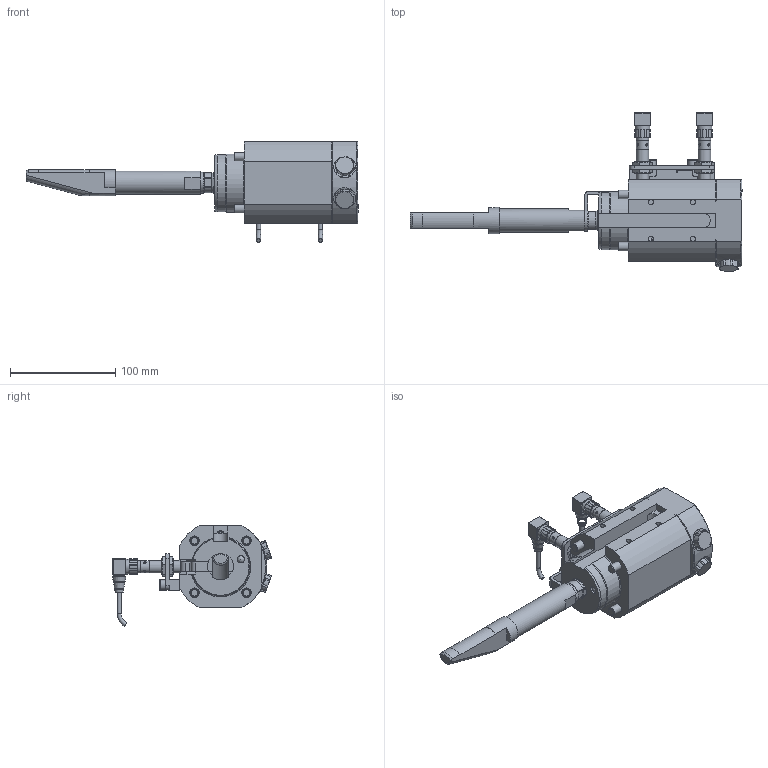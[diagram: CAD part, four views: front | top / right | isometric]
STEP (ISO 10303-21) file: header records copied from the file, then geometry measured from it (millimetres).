
FILE_DESCRIPTION(/* description */ (''),/* implementation_level */ '2;1');
FILE_NAME(/* name */ 'P:\Engineering\Released Drawings\Standard Parts\HECS, Engel Cylinders\HECS40\HECS40-810-4 (04-02-21).stp',/* time_stamp */ '2021-02-04T08:09:28+01:00',/* author */ ('breep'),/* organization */ (''),/* preprocessor_version */ 'ST-DEVELOPER v17.2',/* originating_system */ 'Autodesk Inventor 2019',/* authorisation */ '');
FILE_SCHEMA (('AUTOMOTIVE_DESIGN { 1 0 10303 214 3 1 1 }'));
Length unit declared in the file: millimetre
Products named in the file (1): HECS-40-810-4 (04-02-21)
Bounding box: 316 x 151.58 x 95.75 mm (x, y, z)
Volume: 694434.6 mm3; surface area: 138814.4 mm2
Topology: 2 solids, 2 shells, 770 faces, 2111 edges, 1401 vertices
Faces by surface type: plane 307, cylinder 252, cone 89, torus 66, bspline 34, sphere 22
Full cylindrical faces by diameter (mm): 2.179 x8, 4 x2, 4.917 x6, 5 x7, 6 x2, 6.3 x1, 7 x5, 8 x5, 9 x6, 9.5 x2, 10 x2, 10.8 x2, 11 x2, 11.43 x2, 11.6 x2, 12 x6, 13 x4, 14 x2, 14.5 x4, 15 x1, 19.38 x1, 19.98 x1, 20 x2, 21 x2, 22 x1, 22.5 x1, 25.5 x1, 27.95 x1, 29.98 x4, 30 x1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
Entity records: 27316 total; most frequent: CARTESIAN_POINT 6804, DIRECTION 4220, ORIENTED_EDGE 4150, EDGE_CURVE 2075, AXIS2_PLACEMENT_3D 1683, VERTEX_POINT 1401, CIRCLE 931, EDGE_LOOP 872
